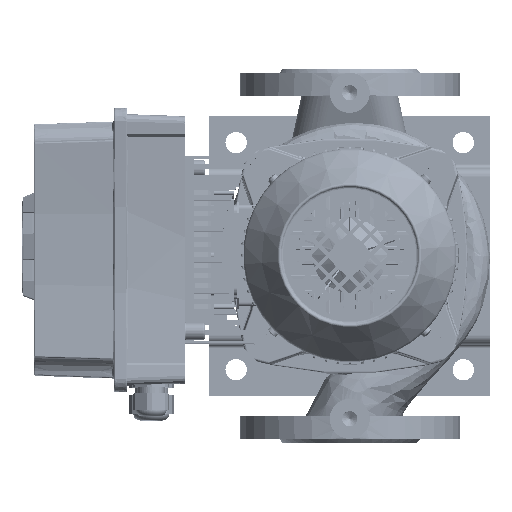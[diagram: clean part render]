
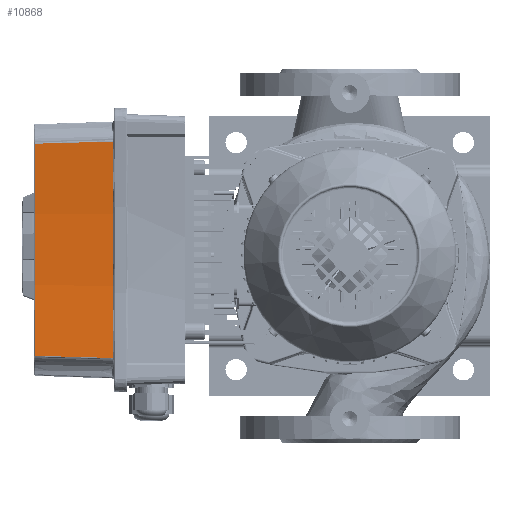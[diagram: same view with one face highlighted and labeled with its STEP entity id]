
A CAD part, top view. The second image highlights one B-rep face of the part: STEP entity #10868.
In plain terms, the highlighted conical face has half-angle 2 degrees and reference radius 845 mm.
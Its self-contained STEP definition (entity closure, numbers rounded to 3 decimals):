
#10868=ADVANCED_FACE('',(#21458),#21459,.F.);
#21458=FACE_OUTER_BOUND('',#46234,.T.);
#21459=CONICAL_SURFACE('',#46235,845.,0.035);
#46234=EDGE_LOOP('',(#72395,#72396,#72397,#72398));
#46235=AXIS2_PLACEMENT_3D('',#72399,#72400,#72401);
#72395=ORIENTED_EDGE('',*,*,#125610,.F.);
#72396=ORIENTED_EDGE('',*,*,#125665,.F.);
#72397=ORIENTED_EDGE('',*,*,#125626,.F.);
#72398=ORIENTED_EDGE('',*,*,#125654,.F.);
#72399=CARTESIAN_POINT('',(-110.0,1132.065,60.));
#72400=DIRECTION('',(0.,0.,-1.0));
#72401=DIRECTION('',(1.0,0.,0.));
#125610=EDGE_CURVE('',#164305,#164311,#164312,.T.);
#125626=EDGE_CURVE('',#164332,#164324,#164334,.T.);
#125654=EDGE_CURVE('',#164311,#164332,#164364,.T.);
#125665=EDGE_CURVE('',#164324,#164305,#164376,.T.);
#164305=VERTEX_POINT('',#197262);
#164311=VERTEX_POINT('',#197304);
#164312=B_SPLINE_CURVE_WITH_KNOTS('',3,(#197305,#197306,#197307,#197308,#197309,#197310,#197311,#197312,#197313,#197314,#197315,#197316,#197317,#197318,#197319,#197320,#197321,#197322,#197323,#197324,#197325,#197326,#197327,#197328,#197329),.UNSPECIFIED.,.F.,.F.,(4,3,3,3,3,3,3,3,4),(-60.14,-51.629,-41.43,-35.057,-31.073,-27.089,-20.715,-10.517,-2.006),.UNSPECIFIED.);
#164324=VERTEX_POINT('',#197418);
#164332=VERTEX_POINT('',#197479);
#164334=B_SPLINE_CURVE_WITH_KNOTS('',3,(#197494,#197495,#197496,#197497,#197498,#197499,#197500,#197501,#197502,#197503,#197504,#197505,#197506,#197507,#197508,#197509,#197510,#197511,#197512,#197513,#197514,#197515,#197516,#197517,#197518),.UNSPECIFIED.,.F.,.F.,(4,3,3,3,3,3,3,3,4),(2.006,10.517,20.716,27.09,31.073,35.057,41.431,51.63,60.14),.UNSPECIFIED.);
#164364=CIRCLE('',#197709,847.062);
#164376=CIRCLE('',#197737,845.034);
#197262=CARTESIAN_POINT('',(-190.987,290.921,59.035));
#197304=CARTESIAN_POINT('',(-189.365,288.73,0.965));
#197305=CARTESIAN_POINT('',(-190.987,290.921,59.035));
#197306=CARTESIAN_POINT('',(-190.902,290.814,56.201));
#197307=CARTESIAN_POINT('',(-190.819,290.706,53.368));
#197308=CARTESIAN_POINT('',(-190.736,290.599,50.534));
#197309=CARTESIAN_POINT('',(-190.637,290.47,47.138));
#197310=CARTESIAN_POINT('',(-190.539,290.342,43.743));
#197311=CARTESIAN_POINT('',(-190.442,290.214,40.347));
#197312=CARTESIAN_POINT('',(-190.381,290.133,38.225));
#197313=CARTESIAN_POINT('',(-190.321,290.053,36.103));
#197314=CARTESIAN_POINT('',(-190.261,289.973,33.98));
#197315=CARTESIAN_POINT('',(-190.224,289.923,32.654));
#197316=CARTESIAN_POINT('',(-190.187,289.873,31.327));
#197317=CARTESIAN_POINT('',(-190.15,289.823,30.001));
#197318=CARTESIAN_POINT('',(-190.113,289.773,28.675));
#197319=CARTESIAN_POINT('',(-190.076,289.723,27.348));
#197320=CARTESIAN_POINT('',(-190.04,289.673,26.022));
#197321=CARTESIAN_POINT('',(-189.981,289.593,23.899));
#197322=CARTESIAN_POINT('',(-189.923,289.513,21.777));
#197323=CARTESIAN_POINT('',(-189.865,289.433,19.655));
#197324=CARTESIAN_POINT('',(-189.772,289.305,16.259));
#197325=CARTESIAN_POINT('',(-189.681,289.177,12.863));
#197326=CARTESIAN_POINT('',(-189.59,289.049,9.467));
#197327=CARTESIAN_POINT('',(-189.515,288.943,6.633));
#197328=CARTESIAN_POINT('',(-189.44,288.836,3.799));
#197329=CARTESIAN_POINT('',(-189.365,288.73,0.965));
#197418=CARTESIAN_POINT('',(-29.013,290.921,59.035));
#197479=CARTESIAN_POINT('',(-30.635,288.73,0.965));
#197494=CARTESIAN_POINT('',(-30.635,288.73,0.965));
#197495=CARTESIAN_POINT('',(-30.56,288.836,3.799));
#197496=CARTESIAN_POINT('',(-30.485,288.943,6.633));
#197497=CARTESIAN_POINT('',(-30.41,289.049,9.467));
#197498=CARTESIAN_POINT('',(-30.319,289.177,12.863));
#197499=CARTESIAN_POINT('',(-30.228,289.305,16.259));
#197500=CARTESIAN_POINT('',(-30.135,289.433,19.654));
#197501=CARTESIAN_POINT('',(-30.077,289.513,21.777));
#197502=CARTESIAN_POINT('',(-30.019,289.593,23.899));
#197503=CARTESIAN_POINT('',(-29.96,289.673,26.022));
#197504=CARTESIAN_POINT('',(-29.924,289.723,27.348));
#197505=CARTESIAN_POINT('',(-29.887,289.773,28.674));
#197506=CARTESIAN_POINT('',(-29.85,289.823,30.001));
#197507=CARTESIAN_POINT('',(-29.813,289.873,31.327));
#197508=CARTESIAN_POINT('',(-29.776,289.923,32.654));
#197509=CARTESIAN_POINT('',(-29.739,289.973,33.98));
#197510=CARTESIAN_POINT('',(-29.679,290.053,36.103));
#197511=CARTESIAN_POINT('',(-29.619,290.133,38.225));
#197512=CARTESIAN_POINT('',(-29.558,290.214,40.347));
#197513=CARTESIAN_POINT('',(-29.461,290.342,43.743));
#197514=CARTESIAN_POINT('',(-29.363,290.47,47.139));
#197515=CARTESIAN_POINT('',(-29.264,290.599,50.534));
#197516=CARTESIAN_POINT('',(-29.181,290.706,53.368));
#197517=CARTESIAN_POINT('',(-29.098,290.814,56.201));
#197518=CARTESIAN_POINT('',(-29.013,290.921,59.035));
#197709=AXIS2_PLACEMENT_3D('',#236013,#236014,#236015);
#197737=AXIS2_PLACEMENT_3D('',#236025,#236026,#236027);
#236013=CARTESIAN_POINT('',(-110.0,1132.065,0.965));
#236014=DIRECTION('',(0.,0.,1.0));
#236015=DIRECTION('',(0.,-1.0,0.));
#236025=CARTESIAN_POINT('',(-110.0,1132.065,59.035));
#236026=DIRECTION('',(0.,0.,-1.0));
#236027=DIRECTION('',(0.,-1.0,0.));
